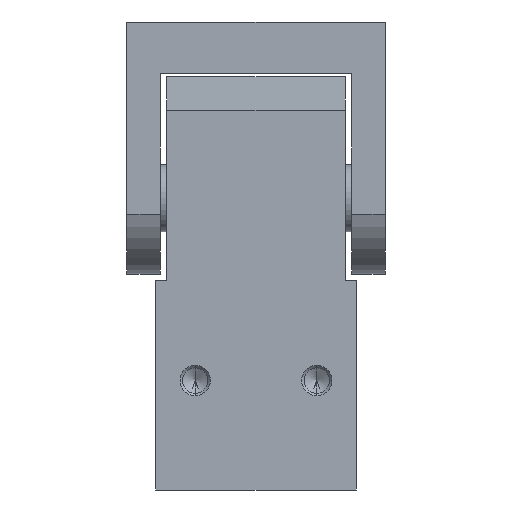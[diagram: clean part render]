
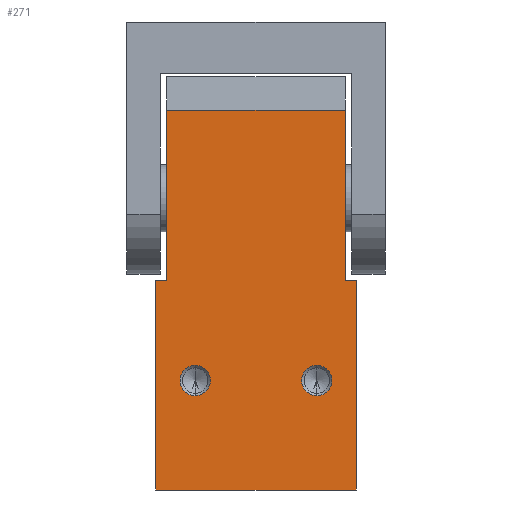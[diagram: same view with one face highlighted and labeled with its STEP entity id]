
A CAD part, left-side view. The second image highlights one B-rep face of the part: STEP entity #271.
In plain terms, the highlighted planar face has unit normal (-1, 0, 0).
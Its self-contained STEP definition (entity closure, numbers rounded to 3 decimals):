
#51 = DIRECTION ( 'NONE',  ( 1., 0., 0. ) ) ;
#63 = CARTESIAN_POINT ( 'NONE',  ( -56., 20., 31. ) ) ;
#68 = DIRECTION ( 'NONE',  ( 0., -1., 0. ) ) ;
#107 = VERTEX_POINT ( 'NONE', #6504 ) ;
#163 = CIRCLE ( 'NONE', #5767, 5. ) ;
#236 = DIRECTION ( 'NONE',  ( 0., -1., 0. ) ) ;
#269 = VERTEX_POINT ( 'NONE', #2588 ) ;
#271 = ADVANCED_FACE ( 'NONE', ( #4582, #5139, #4616 ), #513, .F. ) ;
#360 = DIRECTION ( 'NONE',  ( 1., 0., 0. ) ) ;
#513 = PLANE ( 'NONE',  #4337 ) ;
#555 = CARTESIAN_POINT ( 'NONE',  ( -56., 29.3, 125. ) ) ;
#556 = CIRCLE ( 'NONE', #3926, 5. ) ;
#798 = VERTEX_POINT ( 'NONE', #3735 ) ;
#877 = CIRCLE ( 'NONE', #4576, 5. ) ;
#990 = ORIENTED_EDGE ( 'NONE', *, *, #1740, .T. ) ;
#1103 = CARTESIAN_POINT ( 'NONE',  ( -56., 33., 69. ) ) ;
#1147 = CARTESIAN_POINT ( 'NONE',  ( -56., -20., 31. ) ) ;
#1194 = VECTOR ( 'NONE', #236, 1000. ) ;
#1265 = CARTESIAN_POINT ( 'NONE',  ( -56., -33., 69. ) ) ;
#1367 = DIRECTION ( 'NONE',  ( 0., -1., 0. ) ) ;
#1434 = EDGE_LOOP ( 'NONE', ( #4869, #1688 ) ) ;
#1468 = DIRECTION ( 'NONE',  ( 0., 0., -1. ) ) ;
#1567 = EDGE_CURVE ( 'NONE', #5001, #3826, #163, .T. ) ;
#1574 = VERTEX_POINT ( 'NONE', #6000 ) ;
#1665 = VERTEX_POINT ( 'NONE', #3470 ) ;
#1681 = DIRECTION ( 'NONE',  ( 0., 0., 1. ) ) ;
#1688 = ORIENTED_EDGE ( 'NONE', *, *, #5660, .T. ) ;
#1740 = EDGE_CURVE ( 'NONE', #107, #269, #3604, .T. ) ;
#1823 = CARTESIAN_POINT ( 'NONE',  ( -56., 33., 0. ) ) ;
#1853 = VERTEX_POINT ( 'NONE', #63 ) ;
#1938 = VECTOR ( 'NONE', #2838, 1000. ) ;
#1970 = DIRECTION ( 'NONE',  ( 0., 0., 1. ) ) ;
#2059 = DIRECTION ( 'NONE',  ( 0., 0., -1. ) ) ;
#2070 = CARTESIAN_POINT ( 'NONE',  ( -56., -29.3, 125. ) ) ;
#2180 = ORIENTED_EDGE ( 'NONE', *, *, #6170, .F. ) ;
#2181 = CARTESIAN_POINT ( 'NONE',  ( -56., 33., 69. ) ) ;
#2358 = CIRCLE ( 'NONE', #5748, 5. ) ;
#2389 = EDGE_CURVE ( 'NONE', #5177, #4195, #5022, .T. ) ;
#2443 = CARTESIAN_POINT ( 'NONE',  ( -56., 20., 36. ) ) ;
#2522 = DIRECTION ( 'NONE',  ( 0., 1., 0. ) ) ;
#2588 = CARTESIAN_POINT ( 'NONE',  ( -56., 33., 0. ) ) ;
#2604 = LINE ( 'NONE', #555, #5206 ) ;
#2667 = ORIENTED_EDGE ( 'NONE', *, *, #4782, .T. ) ;
#2714 = EDGE_CURVE ( 'NONE', #269, #1665, #5391, .T. ) ;
#2831 = ORIENTED_EDGE ( 'NONE', *, *, #6347, .T. ) ;
#2838 = DIRECTION ( 'NONE',  ( 0., 0., -1. ) ) ;
#3356 = CARTESIAN_POINT ( 'NONE',  ( -56., 20., 36. ) ) ;
#3425 = CARTESIAN_POINT ( 'NONE',  ( -56., -29.3, 69. ) ) ;
#3470 = CARTESIAN_POINT ( 'NONE',  ( -56., -33., 0. ) ) ;
#3477 = EDGE_CURVE ( 'NONE', #107, #1574, #5798, .T. ) ;
#3574 = CARTESIAN_POINT ( 'NONE',  ( -56., 33., 69. ) ) ;
#3604 = LINE ( 'NONE', #1103, #3774 ) ;
#3669 = EDGE_LOOP ( 'NONE', ( #2667, #2831 ) ) ;
#3690 = VECTOR ( 'NONE', #1970, 1000. ) ;
#3735 = CARTESIAN_POINT ( 'NONE',  ( -56., 20., 41. ) ) ;
#3774 = VECTOR ( 'NONE', #4104, 1000. ) ;
#3825 = CARTESIAN_POINT ( 'NONE',  ( -56., -33., 69. ) ) ;
#3826 = VERTEX_POINT ( 'NONE', #1147 ) ;
#3926 = AXIS2_PLACEMENT_3D ( 'NONE', #2443, #6494, #1468 ) ;
#3952 = VERTEX_POINT ( 'NONE', #3825 ) ;
#4089 = CARTESIAN_POINT ( 'NONE',  ( -56., -20., 36. ) ) ;
#4104 = DIRECTION ( 'NONE',  ( 0., 0., -1. ) ) ;
#4125 = CARTESIAN_POINT ( 'NONE',  ( -56., -29.3, 69. ) ) ;
#4195 = VERTEX_POINT ( 'NONE', #2070 ) ;
#4229 = VECTOR ( 'NONE', #5865, 1000. ) ;
#4248 = VECTOR ( 'NONE', #1681, 1000. ) ;
#4337 = AXIS2_PLACEMENT_3D ( 'NONE', #3574, #51, #2522 ) ;
#4406 = LINE ( 'NONE', #1265, #1938 ) ;
#4576 = AXIS2_PLACEMENT_3D ( 'NONE', #4089, #5129, #4880 ) ;
#4582 = FACE_OUTER_BOUND ( 'NONE', #5587, .T. ) ;
#4607 = CARTESIAN_POINT ( 'NONE',  ( -56., -20., 41. ) ) ;
#4616 = FACE_BOUND ( 'NONE', #3669, .T. ) ;
#4720 = CARTESIAN_POINT ( 'NONE',  ( -56., 29.3, 69. ) ) ;
#4782 = EDGE_CURVE ( 'NONE', #798, #1853, #2358, .T. ) ;
#4869 = ORIENTED_EDGE ( 'NONE', *, *, #1567, .T. ) ;
#4880 = DIRECTION ( 'NONE',  ( 0., 0., -1. ) ) ;
#4942 = EDGE_CURVE ( 'NONE', #3952, #1665, #4406, .T. ) ;
#5001 = VERTEX_POINT ( 'NONE', #4607 ) ;
#5022 = LINE ( 'NONE', #3425, #3690 ) ;
#5089 = ORIENTED_EDGE ( 'NONE', *, *, #3477, .F. ) ;
#5129 = DIRECTION ( 'NONE',  ( 1., 0., 0. ) ) ;
#5139 = FACE_BOUND ( 'NONE', #1434, .T. ) ;
#5177 = VERTEX_POINT ( 'NONE', #4125 ) ;
#5206 = VECTOR ( 'NONE', #68, 1000. ) ;
#5222 = ORIENTED_EDGE ( 'NONE', *, *, #2389, .T. ) ;
#5391 = LINE ( 'NONE', #1823, #4229 ) ;
#5469 = VERTEX_POINT ( 'NONE', #6452 ) ;
#5587 = EDGE_LOOP ( 'NONE', ( #6366, #6525, #2180, #5222, #5626, #6015, #5089, #990 ) ) ;
#5603 = EDGE_CURVE ( 'NONE', #5469, #4195, #2604, .T. ) ;
#5626 = ORIENTED_EDGE ( 'NONE', *, *, #5603, .F. ) ;
#5639 = EDGE_CURVE ( 'NONE', #1574, #5469, #6215, .T. ) ;
#5660 = EDGE_CURVE ( 'NONE', #3826, #5001, #877, .T. ) ;
#5748 = AXIS2_PLACEMENT_3D ( 'NONE', #3356, #360, #6349 ) ;
#5767 = AXIS2_PLACEMENT_3D ( 'NONE', #6501, #6069, #2059 ) ;
#5798 = LINE ( 'NONE', #2181, #1194 ) ;
#5828 = LINE ( 'NONE', #5870, #6151 ) ;
#5865 = DIRECTION ( 'NONE',  ( 0., -1., 0. ) ) ;
#5870 = CARTESIAN_POINT ( 'NONE',  ( -56., 33., 69. ) ) ;
#6000 = CARTESIAN_POINT ( 'NONE',  ( -56., 29.3, 69. ) ) ;
#6015 = ORIENTED_EDGE ( 'NONE', *, *, #5639, .F. ) ;
#6069 = DIRECTION ( 'NONE',  ( 1., 0., 0. ) ) ;
#6151 = VECTOR ( 'NONE', #1367, 1000. ) ;
#6170 = EDGE_CURVE ( 'NONE', #5177, #3952, #5828, .T. ) ;
#6215 = LINE ( 'NONE', #4720, #4248 ) ;
#6347 = EDGE_CURVE ( 'NONE', #1853, #798, #556, .T. ) ;
#6349 = DIRECTION ( 'NONE',  ( 0., 0., -1. ) ) ;
#6366 = ORIENTED_EDGE ( 'NONE', *, *, #2714, .T. ) ;
#6452 = CARTESIAN_POINT ( 'NONE',  ( -56., 29.3, 125. ) ) ;
#6494 = DIRECTION ( 'NONE',  ( 1., 0., 0. ) ) ;
#6501 = CARTESIAN_POINT ( 'NONE',  ( -56., -20., 36. ) ) ;
#6504 = CARTESIAN_POINT ( 'NONE',  ( -56., 33., 69. ) ) ;
#6525 = ORIENTED_EDGE ( 'NONE', *, *, #4942, .F. ) ;
